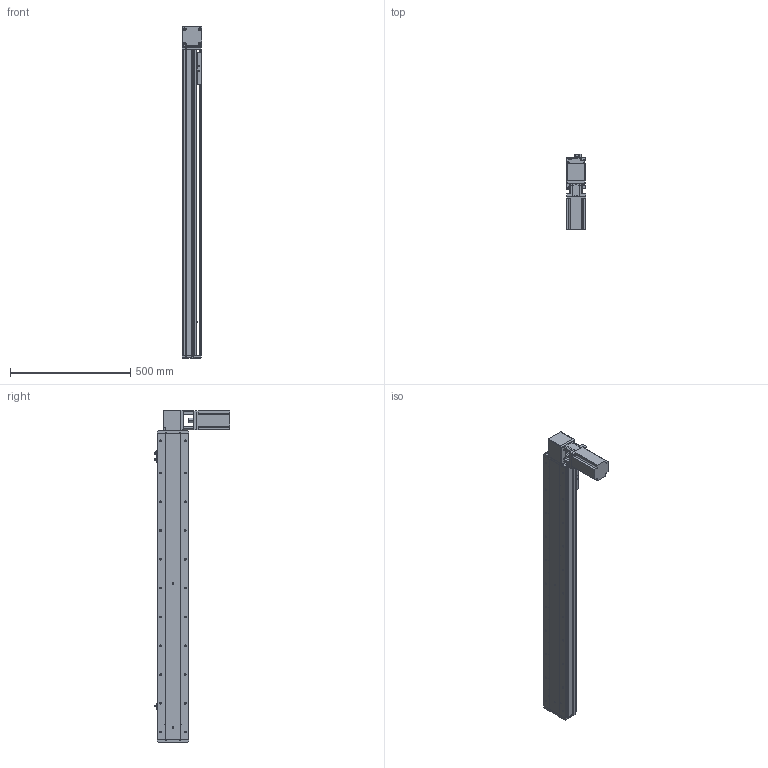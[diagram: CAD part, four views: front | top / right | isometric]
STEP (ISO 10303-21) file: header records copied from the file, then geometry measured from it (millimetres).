
FILE_DESCRIPTION (( 'STEP AP214' ), '1' );
FILE_NAME ('KSD130B-S1050-MRT-CM.STEP', '2019-11-16T03:32:04', ( '微软用户' ), ( '微软中国' ), 'SwSTEP 2.0', 'SolidWorks 2014', '' );
FILE_SCHEMA (( 'AUTOMOTIVE_DESIGN' ));
Length unit declared in the file: millimetre
Products named in the file (12): 台达ECMA－C20807AS伺服电机; 130宽马达安装板1-带电机座750W（1）; 覜茼え100遵圉猾敕; U倰嫖萇EEㄜSX672; 130宽安装板同步带带电机座750W; 130宽盖板半封闭同步带-1050行程; 130宽马达安装板同步带左-改; 130宽马达安装板同步带半封闭; 130宽同步带安装座半封闭; 130宽端盖同步带半封闭; 130宽底板半封闭同步带-1050行程; KSD130B-S1050-MRT-CM
Assembly tree (13 placements, depth 2):
  KSD130B-S1050-MRT-CM
    130宽底板半封闭同步带-1050行程
    130宽端盖同步带半封闭
    130宽同步带安装座半封闭
    130宽马达安装板同步带半封闭
    130宽马达安装板同步带左-改
    130宽盖板半封闭同步带-1050行程
    130宽安装板同步带带电机座750W
    U倰嫖萇EEㄜSX672  x3
    覜茼え100遵圉猾敕
    130宽马达安装板1-带电机座750W（1）
    台达ECMA－C20807AS伺服电机
Bounding box: 81 x 316 x 1383 mm (x, y, z)
Volume: 5098515.8 mm3; surface area: 1354219.5 mm2
Topology: 14 solids, 14 shells, 1537 faces, 4392 edges, 2801 vertices
Faces by surface type: cylinder 743, plane 609, cone 185
Entity records: 50707 total; most frequent: CARTESIAN_POINT 9451, DIRECTION 7710, ORIENTED_EDGE 7412, EDGE_CURVE 3706, AXIS2_PLACEMENT_3D 2832, VERTEX_POINT 2425, VECTOR 2046, LINE 2046
